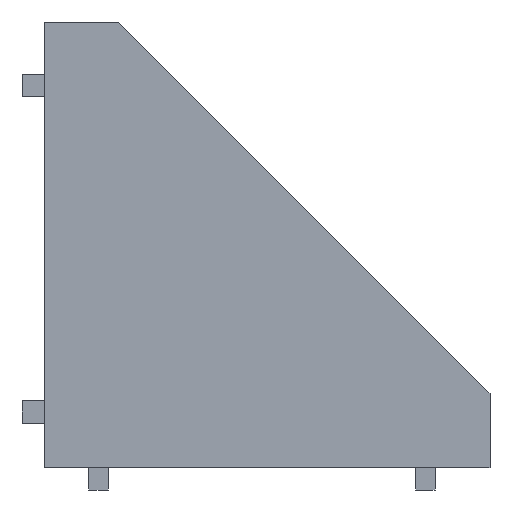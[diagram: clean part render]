
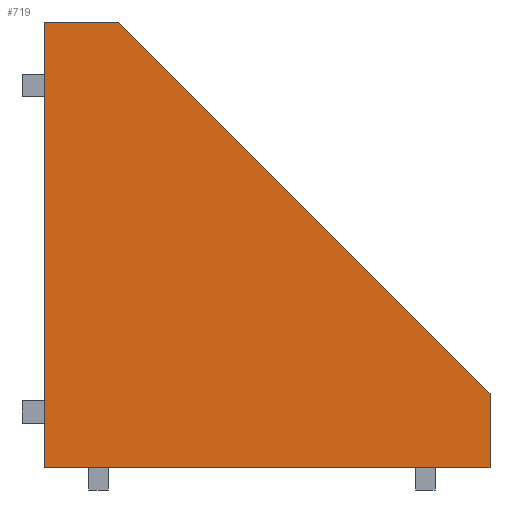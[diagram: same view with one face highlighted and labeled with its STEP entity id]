
A CAD part, left-side view. The second image highlights one B-rep face of the part: STEP entity #719.
In plain terms, the highlighted planar face has unit normal (-1, 0, 0).
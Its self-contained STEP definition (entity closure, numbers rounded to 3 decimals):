
#137=ORIENTED_EDGE('',*,*,#299,.T.);
#138=ORIENTED_EDGE('',*,*,#294,.F.);
#139=ORIENTED_EDGE('',*,*,#244,.F.);
#140=ORIENTED_EDGE('',*,*,#264,.F.);
#141=ORIENTED_EDGE('',*,*,#290,.F.);
#244=EDGE_CURVE('',#338,#339,#404,.T.);
#264=EDGE_CURVE('',#354,#338,#424,.T.);
#290=EDGE_CURVE('',#378,#354,#444,.T.);
#294=EDGE_CURVE('',#339,#380,#448,.T.);
#299=EDGE_CURVE('',#378,#380,#453,.T.);
#338=VERTEX_POINT('',#1027);
#339=VERTEX_POINT('',#1028);
#354=VERTEX_POINT('',#1069);
#378=VERTEX_POINT('',#1122);
#380=VERTEX_POINT('',#1129);
#404=LINE('',#1026,#494);
#424=LINE('',#1068,#514);
#444=LINE('',#1121,#534);
#448=LINE('',#1128,#538);
#453=LINE('',#1137,#543);
#494=VECTOR('',#835,1000.);
#514=VECTOR('',#867,1000.);
#534=VECTOR('',#905,1000.);
#538=VECTOR('',#911,1000.);
#543=VECTOR('',#920,1000.);
#595=EDGE_LOOP('',(#137,#138,#139,#140,#141));
#643=FACE_BOUND('',#595,.T.);
#683=PLANE('',#780);
#719=ADVANCED_FACE('',(#643),#683,.T.);
#780=AXIS2_PLACEMENT_3D('',#1136,#918,#919);
#835=DIRECTION('',(0.,0.,1.));
#867=DIRECTION('',(0.,1.,0.));
#905=DIRECTION('',(0.,0.,-1.));
#911=DIRECTION('',(0.,-1.,0.));
#918=DIRECTION('',(-1.,0.,0.));
#919=DIRECTION('',(0.,0.,1.));
#920=DIRECTION('',(0.,0.707,0.707));
#1026=CARTESIAN_POINT('',(-12.,0.,0.));
#1027=CARTESIAN_POINT('',(-12.,0.,0.));
#1028=CARTESIAN_POINT('',(-12.,0.,30.));
#1068=CARTESIAN_POINT('',(-12.,-30.,0.));
#1069=CARTESIAN_POINT('',(-12.,-30.,0.));
#1121=CARTESIAN_POINT('',(-12.,-30.,5.));
#1122=CARTESIAN_POINT('',(-12.,-30.,5.));
#1128=CARTESIAN_POINT('',(-12.,0.,30.));
#1129=CARTESIAN_POINT('',(-12.,-5.,30.));
#1136=CARTESIAN_POINT('',(-12.,0.,0.));
#1137=CARTESIAN_POINT('',(-12.,-30.,5.));
